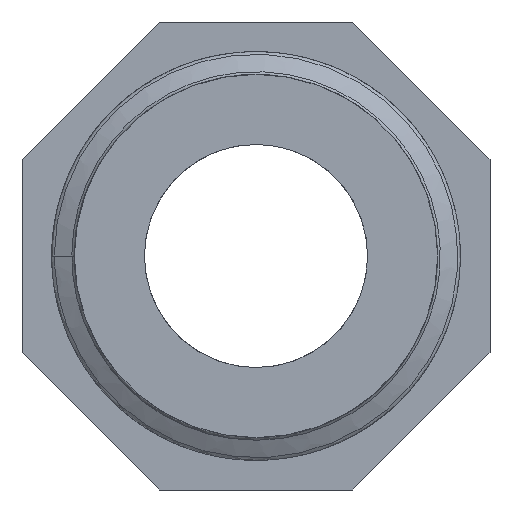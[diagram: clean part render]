
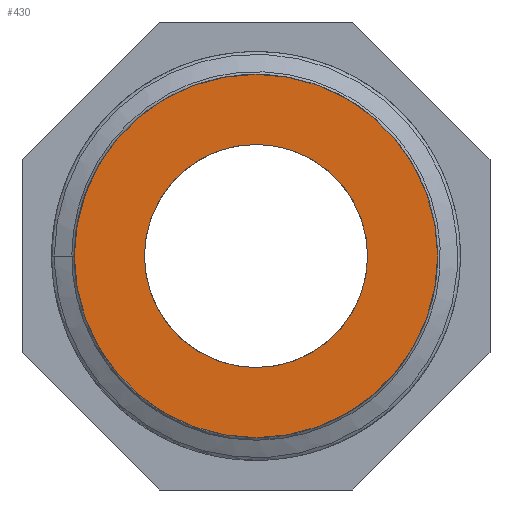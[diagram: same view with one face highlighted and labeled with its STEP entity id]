
A CAD part, front view. The second image highlights one B-rep face of the part: STEP entity #430.
In plain terms, the highlighted planar face has unit normal (0, -1, 0).
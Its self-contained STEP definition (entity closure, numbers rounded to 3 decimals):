
#17=FACE_BOUND('',#93,.T.);
#32=PLANE('',#455);
#37=CIRCLE('',#439,9.316);
#41=CIRCLE('',#454,5.723);
#65=FACE_OUTER_BOUND('',#92,.T.);
#92=EDGE_LOOP('',(#382));
#93=EDGE_LOOP('',(#383));
#186=VERTEX_POINT('',#2582);
#216=VERTEX_POINT('',#6988);
#234=EDGE_CURVE('',#186,#186,#37,.T.);
#276=EDGE_CURVE('',#216,#216,#41,.T.);
#382=ORIENTED_EDGE('',*,*,#234,.T.);
#383=ORIENTED_EDGE('',*,*,#276,.T.);
#430=ADVANCED_FACE('',(#65,#17),#32,.F.);
#439=AXIS2_PLACEMENT_3D('',#3782,#472,#473);
#454=AXIS2_PLACEMENT_3D('',#6989,#529,#530);
#455=AXIS2_PLACEMENT_3D('',#6990,#531,#532);
#472=DIRECTION('center_axis',(0.,-1.,0.));
#473=DIRECTION('ref_axis',(1.,0.,0.));
#529=DIRECTION('center_axis',(0.,1.,0.));
#530=DIRECTION('ref_axis',(1.,0.,0.));
#531=DIRECTION('center_axis',(0.,1.,0.));
#532=DIRECTION('ref_axis',(0.,0.,1.));
#2582=CARTESIAN_POINT('',(-9.316,0.,0.));
#3782=CARTESIAN_POINT('Origin',(0.,0.,0.));
#6988=CARTESIAN_POINT('',(-5.723,0.,0.));
#6989=CARTESIAN_POINT('Origin',(0.,0.,0.));
#6990=CARTESIAN_POINT('Origin',(0.,0.,0.));
